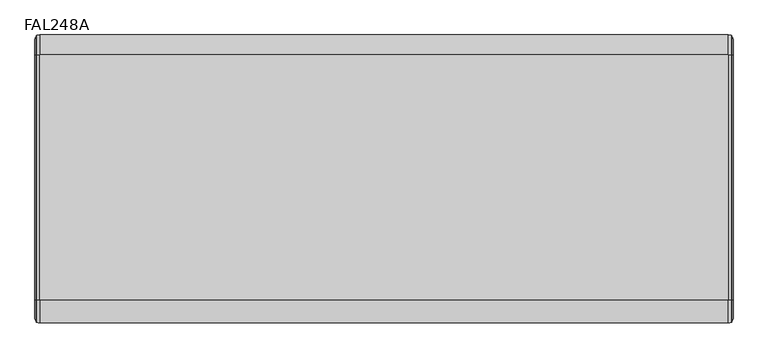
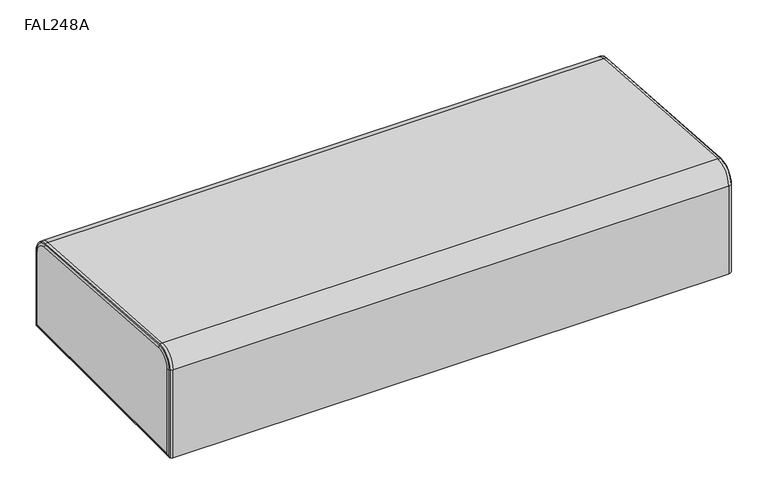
"""IFC4 building model written with IfcOpenShell, lengths in millimetres: furniture geometry, Stance_HC-Flora-Seat_Straight-Double_Side : FAL248A."""

from ifc_helpers import new_model, si_unit, point, frame, origin, place, context, project, spatial, circle_curve, ellipse_curve, trimmed, source, transform, mapped, element, save
from ifc_brep_helpers import plane_surface, cylinder_surface, revolved_surface, advanced_brep


def fal248a_ccf3dbf3(model_context):
    return source(origin(), model_context, "Body", "AdvancedBrep", [
        advanced_brep(
        [(1231.9, -718.0252254, 401.7640675), (1231.9, -718.0252254, 207.1687439), (1231.9, -227.4877011, 207.1687439), (1231.9, -227.4877011, 371.5696858), (1231.9, -254.8077919, 400.8668951), (1231.9, -686.6078161, 431.0612768), (0.0, -718.0252254, 207.1687439), (0.0, -718.0252254, 401.7640675), (0.0, -686.6078161, 431.0612768), (0.0, -254.8077919, 400.8668951), (0.0, -227.4877011, 371.5696858), (0.0, -227.4877011, 207.1687439), (1223.4158065, -726.7564754, 401.7640675), (8.4841935, -726.7564754, 401.7640675), (8.4841935, -726.7564754, 198.4374939), (1223.4158065, -726.7564754, 198.4374939), (8.4841935, -218.7564511, 198.4374939), (1223.4158065, -218.7564511, 198.4374939), (8.4841935, -218.7564511, 371.5696858), (1223.4158065, -218.7564511, 371.5696858), (1223.4158065, -254.198731, 409.5768762), (8.4841935, -254.198731, 409.5768762), (8.4841935, -685.9987552, 439.7712579), (1223.4158065, -685.9987552, 439.7712579), (2.6434528, -723.7181949, 401.7640675), (2.6434528, -723.7181949, 201.4757744), (2.5810757, -725.6518846, 199.5420847), (2.5810757, -725.6518846, 401.7640675), (2.6434528, -221.7947316, 201.4757744), (2.5810757, -219.8610419, 199.5420847), (2.6434528, -221.7947316, 371.5696858), (2.5810757, -219.8610419, 371.5696858), (2.6434528, -254.4106706, 406.5459969), (2.6434528, -686.2106948, 436.7403786), (2.5810757, -686.0758075, 438.6693579), (2.5810757, -254.2757833, 408.4749762), (1229.3189243, -725.6518846, 199.5420847), (1229.3189243, -725.6518846, 401.7640675), (1229.2565472, -723.7181949, 201.4757744), (1229.2565472, -723.7181949, 401.7640675), (1229.3189243, -219.8610419, 199.5420847), (1229.2565472, -221.7947316, 201.4757744), (1229.3189243, -219.8610419, 371.5696858), (1229.2565472, -221.7947316, 371.5696858), (1229.3189243, -686.0758075, 438.6693579), (1229.3189243, -254.2757833, 408.4749762), (1229.2565472, -686.2106948, 436.7403786), (1229.2565472, -254.4106706, 406.5459969)],
        [
            (0, 1),
            (1, 2),
            (2, 3),
            (3, 4, circle_curve(frame((1231.9, -256.8564511, 371.5696858), z_axis=(1.0, 0.0, 0.0), x_axis=(0.0, 1.0, 0.0)), 29.36875)),
            (4, 5),
            (5, 0, circle_curve(frame((1231.9, -688.6564754, 401.7640675), z_axis=(1.0, 0.0, 0.0), x_axis=(0.0, 0.06975643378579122, 0.9975640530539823)), 29.36875)),
            (6, 7),
            (7, 8, circle_curve(frame((0.0, -688.6564754, 401.7640675), z_axis=(-1.0, 0.0, 0.0), x_axis=(0.0, 0.06975643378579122, 0.9975640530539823)), 29.36875)),
            (8, 9),
            (9, 10, circle_curve(frame((0.0, -256.8564511, 371.5696858), z_axis=(-1.0, 0.0, 0.0), x_axis=(0.0, 1.0, 0.0)), 29.36875)),
            (10, 11),
            (11, 6),
            (12, 13),
            (13, 14),
            (14, 15),
            (15, 12),
            (14, 16),
            (16, 17),
            (17, 15),
            (16, 18),
            (18, 19),
            (19, 17),
            (20, 21),
            (21, 22),
            (22, 23),
            (23, 20),
            (24, 7, circle_curve(frame((7.4519478, -718.0252254, 401.7640675), z_axis=(0.0, 0.0, -1.0), x_axis=(0.0, 1.0, 0.0)), 7.4519478)),
            (6, 25, ellipse_curve(frame((7.4519478, -718.0252254, 207.1687439), z_axis=(0.0, -0.7071067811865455, 0.7071067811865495), x_axis=(0.0, 0.7071067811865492, 0.7071067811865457)), 10.5386456, 7.4519478)),
            (25, 24),
            (25, 26, ellipse_curve(frame((2.9517888, -724.6959921, 200.4979772), z_axis=(0.0, -0.7071067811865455, 0.7071067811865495), x_axis=(0.0, 0.7071067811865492, 0.7071067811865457)), 1.4499369, 1.0252602)),
            (26, 27),
            (27, 24, circle_curve(frame((2.9517888, -724.6959921, 401.7640675), z_axis=(0.0, 0.0, -1.0), x_axis=(0.0, 1.0, 0.0)), 1.0252602)),
            (13, 27, circle_curve(frame((8.4841935, -710.4305563, 401.7640675), z_axis=(0.0, 0.0, -1.0), x_axis=(0.0, 1.0, 0.0)), 16.3259191)),
            (26, 14, ellipse_curve(frame((8.4841935, -710.4305563, 214.763413), z_axis=(0.0, -0.7071067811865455, 0.7071067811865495), x_axis=(0.0, 0.7071067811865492, 0.7071067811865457)), 23.0883362, 16.3259191)),
            (11, 28, ellipse_curve(frame((7.4519478, -227.4877011, 207.1687439), z_axis=(0.0, -0.7071067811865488, -0.7071067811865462), x_axis=(0.0, -0.7071067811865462, 0.7071067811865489)), 10.5386456, 7.4519478)),
            (28, 25),
            (28, 29, ellipse_curve(frame((2.9517888, -220.8169344, 200.4979772), z_axis=(0.0, -0.7071067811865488, -0.7071067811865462), x_axis=(0.0, -0.7071067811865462, 0.7071067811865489)), 1.4499369, 1.0252602)),
            (29, 26),
            (29, 16, ellipse_curve(frame((8.4841935, -235.0823702, 214.763413), z_axis=(0.0, -0.7071067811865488, -0.7071067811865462), x_axis=(0.0, -0.7071067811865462, 0.7071067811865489)), 23.0883362, 16.3259191)),
            (10, 30, circle_curve(frame((7.4519478, -227.4877011, 371.5696858), z_axis=(0.0, 0.0, -1.0), x_axis=(0.0, -1.0, 0.0)), 7.4519478)),
            (30, 28),
            (30, 31, circle_curve(frame((2.9517888, -220.8169344, 371.5696858), z_axis=(0.0, 0.0, -1.0), x_axis=(0.0, -1.0, 0.0)), 1.0252602)),
            (31, 29),
            (31, 18, circle_curve(frame((8.4841935, -235.0823702, 371.5696858), z_axis=(0.0, 0.0, -1.0), x_axis=(0.0, -1.0, 0.0)), 16.3259191)),
            (32, 9, circle_curve(frame((7.4519478, -254.8077919, 400.8668951), z_axis=(0.0, -0.9975640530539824, 0.06975643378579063), x_axis=(0.0, -0.06975643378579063, -0.9975640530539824)), 7.4519478)),
            (8, 33, circle_curve(frame((7.4519478, -686.6078161, 431.0612768), z_axis=(0.0, 0.9975640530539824, -0.06975643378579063), x_axis=(0.0, -0.06975643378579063, -0.9975640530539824)), 7.4519478)),
            (33, 32),
            (33, 34, circle_curve(frame((2.9517888, -686.1424872, 437.7157939), z_axis=(0.0, 0.9975640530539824, -0.06975643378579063), x_axis=(0.0, -0.06975643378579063, -0.9975640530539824)), 1.0252602)),
            (34, 35),
            (35, 32, circle_curve(frame((2.9517888, -254.342463, 407.5214122), z_axis=(0.0, -0.9975640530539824, 0.06975643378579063), x_axis=(0.0, -0.06975643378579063, -0.9975640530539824)), 1.0252602)),
            (21, 35, circle_curve(frame((8.4841935, -255.3375689, 393.2907262), z_axis=(0.0, -0.9975640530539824, 0.06975643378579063), x_axis=(0.0, -0.06975643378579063, -0.9975640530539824)), 16.3259191)),
            (34, 22, circle_curve(frame((8.4841935, -687.1375931, 423.4851079), z_axis=(0.0, 0.9975640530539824, -0.06975643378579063), x_axis=(0.0, -0.06975643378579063, -0.9975640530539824)), 16.3259191)),
            (15, 36, ellipse_curve(frame((1223.4158065, -710.4305563, 214.763413), z_axis=(0.0, -0.7071067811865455, 0.7071067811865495), x_axis=(0.0, 0.7071067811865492, 0.7071067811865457)), 23.0883362, 16.3259191)),
            (36, 37),
            (37, 12, circle_curve(frame((1223.4158065, -710.4305563, 401.7640675), z_axis=(0.0, 0.0, -1.0), x_axis=(0.0, 1.0, 0.0)), 16.3259191)),
            (36, 38, ellipse_curve(frame((1228.9482112, -724.6959921, 200.4979772), z_axis=(0.0, -0.7071067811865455, 0.7071067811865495), x_axis=(0.0, 0.7071067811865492, 0.7071067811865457)), 1.4499369, 1.0252602)),
            (38, 39),
            (39, 37, circle_curve(frame((1228.9482112, -724.6959921, 401.7640675), z_axis=(0.0, 0.0, -1.0), x_axis=(0.0, 1.0, 0.0)), 1.0252602)),
            (38, 1, ellipse_curve(frame((1224.4480522, -718.0252254, 207.1687439), z_axis=(0.0, -0.7071067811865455, 0.7071067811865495), x_axis=(0.0, 0.7071067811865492, 0.7071067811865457)), 10.5386456, 7.4519478)),
            (0, 39, circle_curve(frame((1224.4480522, -718.0252254, 401.7640675), z_axis=(0.0, 0.0, -1.0), x_axis=(0.0, 1.0, 0.0)), 7.4519478)),
            (17, 40, ellipse_curve(frame((1223.4158065, -235.0823702, 214.763413), z_axis=(0.0, -0.7071067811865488, -0.7071067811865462), x_axis=(0.0, -0.7071067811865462, 0.7071067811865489)), 23.0883362, 16.3259191)),
            (40, 36),
            (40, 41, ellipse_curve(frame((1228.9482112, -220.8169344, 200.4979772), z_axis=(0.0, -0.7071067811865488, -0.7071067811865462), x_axis=(0.0, -0.7071067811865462, 0.7071067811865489)), 1.4499369, 1.0252602)),
            (41, 38),
            (41, 2, ellipse_curve(frame((1224.4480522, -227.4877011, 207.1687439), z_axis=(0.0, -0.7071067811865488, -0.7071067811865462), x_axis=(0.0, -0.7071067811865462, 0.7071067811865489)), 10.5386456, 7.4519478)),
            (19, 42, circle_curve(frame((1223.4158065, -235.0823702, 371.5696858), z_axis=(0.0, 0.0, -1.0), x_axis=(0.0, -1.0, 0.0)), 16.3259191)),
            (42, 40),
            (42, 43, circle_curve(frame((1228.9482112, -220.8169344, 371.5696858), z_axis=(0.0, 0.0, -1.0), x_axis=(0.0, -1.0, 0.0)), 1.0252602)),
            (43, 41),
            (43, 3, circle_curve(frame((1224.4480522, -227.4877011, 371.5696858), z_axis=(0.0, 0.0, -1.0), x_axis=(0.0, -1.0, 0.0)), 7.4519478)),
            (23, 44, circle_curve(frame((1223.4158065, -687.1375931, 423.4851079), z_axis=(0.0, 0.9975640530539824, -0.06975643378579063), x_axis=(0.0, -0.06975643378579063, -0.9975640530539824)), 16.3259191)),
            (44, 45),
            (45, 20, circle_curve(frame((1223.4158065, -255.3375689, 393.2907262), z_axis=(0.0, -0.9975640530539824, 0.06975643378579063), x_axis=(0.0, -0.06975643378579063, -0.9975640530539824)), 16.3259191)),
            (44, 46, circle_curve(frame((1228.9482112, -686.1424872, 437.7157939), z_axis=(0.0, 0.9975640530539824, -0.06975643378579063), x_axis=(0.0, -0.06975643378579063, -0.9975640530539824)), 1.0252602)),
            (46, 47),
            (47, 45, circle_curve(frame((1228.9482112, -254.342463, 407.5214122), z_axis=(0.0, -0.9975640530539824, 0.06975643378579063), x_axis=(0.0, -0.06975643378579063, -0.9975640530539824)), 1.0252602)),
            (46, 5, circle_curve(frame((1224.4480522, -686.6078161, 431.0612768), z_axis=(0.0, 0.9975640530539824, -0.06975643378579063), x_axis=(0.0, -0.06975643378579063, -0.9975640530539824)), 7.4519478)),
            (4, 47, circle_curve(frame((1224.4480522, -254.8077919, 400.8668951), z_axis=(0.0, -0.9975640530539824, 0.06975643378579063), x_axis=(0.0, -0.06975643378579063, -0.9975640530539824)), 7.4519478)),
            (37, 44, circle_curve(frame((1229.3189243, -688.6564754, 401.7640675), z_axis=(-1.0, 0.0, 0.0), x_axis=(0.0, 0.06975643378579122, 0.9975640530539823)), 36.9954092)),
            (23, 12, circle_curve(frame((1223.4158065, -688.6564754, 401.7640675), z_axis=(1.0, 0.0, 0.0), x_axis=(0.0, 0.06975643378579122, 0.9975640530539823)), 38.1)),
            (39, 46, circle_curve(frame((1229.2565472, -688.6564754, 401.7640675), z_axis=(-1.0, 0.0, 0.0), x_axis=(0.0, 0.06975643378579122, 0.9975640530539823)), 35.0617195)),
            (24, 33, circle_curve(frame((2.6434528, -688.6564754, 401.7640675), z_axis=(-1.0, 0.0, 0.0), x_axis=(0.0, 0.06975643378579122, 0.9975640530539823)), 35.0617195)),
            (27, 34, circle_curve(frame((2.5810757, -688.6564754, 401.7640675), z_axis=(-1.0, 0.0, 0.0), x_axis=(0.0, 0.06975643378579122, 0.9975640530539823)), 36.9954092)),
            (13, 22, circle_curve(frame((8.4841935, -688.6564754, 401.7640675), z_axis=(-1.0, 0.0, 0.0), x_axis=(0.0, 0.06975643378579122, 0.9975640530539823)), 38.1)),
            (19, 20, circle_curve(frame((1223.4158065, -256.8564511, 371.5696858), z_axis=(1.0, 0.0, 0.0), x_axis=(0.0, 1.0, 0.0)), 38.1)),
            (45, 42, circle_curve(frame((1229.3189243, -256.8564511, 371.5696858), z_axis=(-1.0, 0.0, 0.0), x_axis=(0.0, 1.0, 0.0)), 36.9954092)),
            (47, 43, circle_curve(frame((1229.2565472, -256.8564511, 371.5696858), z_axis=(-1.0, 0.0, 0.0), x_axis=(0.0, 1.0, 0.0)), 35.0617195)),
            (32, 30, circle_curve(frame((2.6434528, -256.8564511, 371.5696858), z_axis=(-1.0, 0.0, 0.0), x_axis=(0.0, 1.0, 0.0)), 35.0617195)),
            (35, 31, circle_curve(frame((2.5810757, -256.8564511, 371.5696858), z_axis=(-1.0, 0.0, 0.0), x_axis=(0.0, 1.0, 0.0)), 36.9954092)),
            (21, 18, circle_curve(frame((8.4841935, -256.8564511, 371.5696858), z_axis=(-1.0, 0.0, 0.0), x_axis=(0.0, 1.0, 0.0)), 38.1)),
        ],
        [
            plane_surface(frame((1231.9, -686.6078161, 431.0612768), z_axis=(1.0, 0.0, 0.0), x_axis=(0.0, -0.9975640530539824, 0.06975643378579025))),
            plane_surface(frame((0.0, -686.6078161, 431.0612768), z_axis=(-1.0, 0.0, 0.0), x_axis=(0.0, 0.9975640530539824, -0.06975643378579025))),
            plane_surface(frame((8.4841935, -726.7564754, 401.7640675), z_axis=(0.0, -1.0, 0.0), x_axis=(0.0, 0.0, -1.0))),
            plane_surface(frame((8.4841935, -726.7564754, 198.4374939), z_axis=(0.0, 0.0, -1.0), x_axis=(0.0, 1.0, 0.0))),
            plane_surface(frame((8.4841935, -218.7564511, 198.4374939), z_axis=(0.0, 1.0, 0.0), x_axis=(0.0, 0.0, 1.0))),
            plane_surface(frame((8.4841935, -254.198731, 409.5768762), z_axis=(0.0, 0.06975643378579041, 0.9975640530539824), x_axis=(0.0, -0.9975640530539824, 0.06975643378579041))),
            cylinder_surface(frame((7.4519478, -718.0252254, 401.7640675), z_axis=(0.0, 0.0, 1.0), x_axis=(0.0, 1.0, 0.0)), 7.4519478),
            cylinder_surface(frame((2.9517888, -724.6959921, 401.7640675), z_axis=(0.0, 0.0, 1.0), x_axis=(0.0, 1.0, 0.0)), 1.0252602),
            cylinder_surface(frame((8.4841935, -710.4305563, 401.7640675), z_axis=(0.0, 0.0, 1.0), x_axis=(0.0, 1.0, 0.0)), 16.3259191),
            cylinder_surface(frame((7.4519478, -726.7564754, 207.1687439), z_axis=(0.0, -1.0, 0.0), x_axis=(0.0, 0.0, 1.0)), 7.4519478),
            cylinder_surface(frame((2.9517888, -726.7564754, 200.4979772), z_axis=(0.0, -1.0, 0.0), x_axis=(0.0, 0.0, 1.0)), 1.0252602),
            cylinder_surface(frame((8.4841935, -726.7564754, 214.763413), z_axis=(0.0, -1.0, 0.0), x_axis=(0.0, 0.0, 1.0)), 16.3259191),
            cylinder_surface(frame((7.4519478, -227.4877011, 198.4374939), z_axis=(0.0, 0.0, -1.0), x_axis=(0.0, -1.0, 0.0)), 7.4519478),
            cylinder_surface(frame((2.9517888, -220.8169344, 198.4374939), z_axis=(0.0, 0.0, -1.0), x_axis=(0.0, -1.0, 0.0)), 1.0252602),
            cylinder_surface(frame((8.4841935, -235.0823702, 198.4374939), z_axis=(0.0, 0.0, -1.0), x_axis=(0.0, -1.0, 0.0)), 16.3259191),
            cylinder_surface(frame((7.4519478, -254.8077919, 400.8668951), z_axis=(0.0, 0.9975640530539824, -0.06975643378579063), x_axis=(0.0, -0.06975643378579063, -0.9975640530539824)), 7.4519478),
            cylinder_surface(frame((2.9517888, -254.342463, 407.5214122), z_axis=(0.0, 0.9975640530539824, -0.06975643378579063), x_axis=(0.0, -0.06975643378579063, -0.9975640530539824)), 1.0252602),
            cylinder_surface(frame((8.4841935, -255.3375689, 393.2907262), z_axis=(0.0, 0.9975640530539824, -0.06975643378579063), x_axis=(0.0, -0.06975643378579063, -0.9975640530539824)), 16.3259191),
            cylinder_surface(frame((1223.4158065, -710.4305563, 401.7640675), z_axis=(0.0, 0.0, 1.0), x_axis=(0.0, 1.0, 0.0)), 16.3259191),
            cylinder_surface(frame((1228.9482112, -724.6959921, 401.7640675), z_axis=(0.0, 0.0, 1.0), x_axis=(0.0, 1.0, 0.0)), 1.0252602),
            cylinder_surface(frame((1224.4480522, -718.0252254, 401.7640675), z_axis=(0.0, 0.0, 1.0), x_axis=(0.0, 1.0, 0.0)), 7.4519478),
            cylinder_surface(frame((1223.4158065, -726.7564754, 214.763413), z_axis=(0.0, -1.0, 0.0), x_axis=(0.0, 0.0, 1.0)), 16.3259191),
            cylinder_surface(frame((1228.9482112, -726.7564754, 200.4979772), z_axis=(0.0, -1.0, 0.0), x_axis=(0.0, 0.0, 1.0)), 1.0252602),
            cylinder_surface(frame((1224.4480522, -726.7564754, 207.1687439), z_axis=(0.0, -1.0, 0.0), x_axis=(0.0, 0.0, 1.0)), 7.4519478),
            cylinder_surface(frame((1223.4158065, -235.0823702, 198.4374939), z_axis=(0.0, 0.0, -1.0), x_axis=(0.0, -1.0, 0.0)), 16.3259191),
            cylinder_surface(frame((1228.9482112, -220.8169344, 198.4374939), z_axis=(0.0, 0.0, -1.0), x_axis=(0.0, -1.0, 0.0)), 1.0252602),
            cylinder_surface(frame((1224.4480522, -227.4877011, 198.4374939), z_axis=(0.0, 0.0, -1.0), x_axis=(0.0, -1.0, 0.0)), 7.4519478),
            cylinder_surface(frame((1223.4158065, -255.3375689, 393.2907262), z_axis=(0.0, 0.9975640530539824, -0.06975643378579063), x_axis=(0.0, -0.06975643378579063, -0.9975640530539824)), 16.3259191),
            cylinder_surface(frame((1228.9482112, -254.342463, 407.5214122), z_axis=(0.0, 0.9975640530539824, -0.06975643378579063), x_axis=(0.0, -0.06975643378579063, -0.9975640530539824)), 1.0252602),
            cylinder_surface(frame((1224.4480522, -254.8077919, 400.8668951), z_axis=(0.0, 0.9975640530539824, -0.06975643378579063), x_axis=(0.0, -0.06975643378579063, -0.9975640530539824)), 7.4519478),
            revolved_surface(trimmed(ellipse_curve(frame((1223.4158065, -687.1375931, 423.4851079), z_axis=(0.0, 0.9975640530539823, -0.06975643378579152), x_axis=(0.0, -0.06975643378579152, -0.9975640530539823)), 16.3259191, 16.3259191), [point((1223.4158065, -685.9987552, 439.7712579))], [point((1229.3189243, -686.0758075, 438.6693579))], True, "CARTESIAN"), (0.0, -688.6564754, 401.7640675), (1.0, 0.0, 0.0)),
            revolved_surface(trimmed(ellipse_curve(frame((1228.9482112, -686.1424872, 437.7157939), z_axis=(0.0, 0.9975640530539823, -0.06975643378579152), x_axis=(0.0, -0.06975643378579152, -0.9975640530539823)), 1.0252602, 1.0252602), [point((1229.3189243, -686.0758075, 438.6693579))], [point((1229.2565472, -686.2106948, 436.7403786))], True, "CARTESIAN"), (0.0, -688.6564754, 401.7640675), (1.0, 0.0, 0.0)),
            revolved_surface(trimmed(ellipse_curve(frame((1224.4480522, -686.6078161, 431.0612768), z_axis=(0.0, 0.9975640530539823, -0.06975643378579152), x_axis=(0.0, -0.06975643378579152, -0.9975640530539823)), 7.4519478, 7.4519478), [point((1229.2565472, -686.2106948, 436.7403786))], [point((1231.9, -686.6078161, 431.0612768))], True, "CARTESIAN"), (0.0, -688.6564754, 401.7640675), (1.0, 0.0, 0.0)),
            revolved_surface(trimmed(ellipse_curve(frame((7.4519478, -686.6078161, 431.0612768), z_axis=(0.0, 0.9975640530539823, -0.06975643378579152), x_axis=(0.0, -0.06975643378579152, -0.9975640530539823)), 7.4519478, 7.4519478), [point((0.0, -686.6078161, 431.0612768))], [point((2.6434528, -686.2106948, 436.7403786))], True, "CARTESIAN"), (0.0, -688.6564754, 401.7640675), (1.0, 0.0, 0.0)),
            revolved_surface(trimmed(ellipse_curve(frame((2.9517888, -686.1424872, 437.7157939), z_axis=(0.0, 0.9975640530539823, -0.06975643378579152), x_axis=(0.0, -0.06975643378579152, -0.9975640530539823)), 1.0252602, 1.0252602), [point((2.6434528, -686.2106948, 436.7403786))], [point((2.5810757, -686.0758075, 438.6693579))], True, "CARTESIAN"), (0.0, -688.6564754, 401.7640675), (1.0, 0.0, 0.0)),
            revolved_surface(trimmed(ellipse_curve(frame((8.4841935, -687.1375931, 423.4851079), z_axis=(0.0, 0.9975640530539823, -0.06975643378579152), x_axis=(0.0, -0.06975643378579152, -0.9975640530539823)), 16.3259191, 16.3259191), [point((2.5810757, -686.0758075, 438.6693579))], [point((8.4841935, -685.9987552, 439.7712579))], True, "CARTESIAN"), (0.0, -688.6564754, 401.7640675), (1.0, 0.0, 0.0)),
            cylinder_surface(frame((0.0, -688.6564754, 401.7640675), z_axis=(1.0, 0.0, 0.0), x_axis=(0.0, 0.06975643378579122, 0.9975640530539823)), 38.1),
            revolved_surface(trimmed(ellipse_curve(frame((1223.4158065, -235.0823702, 371.5696858), z_axis=(0.0, 0.0, -1.0), x_axis=(0.0, -1.0, 0.0)), 16.3259191, 16.3259191), [point((1223.4158065, -218.7564511, 371.5696858))], [point((1229.3189243, -219.8610419, 371.5696858))], True, "CARTESIAN"), (0.0, -256.8564511, 371.5696858), (1.0, 0.0, 0.0)),
            revolved_surface(trimmed(ellipse_curve(frame((1228.9482112, -220.8169344, 371.5696858), z_axis=(0.0, 0.0, -1.0), x_axis=(0.0, -1.0, 0.0)), 1.0252602, 1.0252602), [point((1229.3189243, -219.8610419, 371.5696858))], [point((1229.2565472, -221.7947316, 371.5696858))], True, "CARTESIAN"), (0.0, -256.8564511, 371.5696858), (1.0, 0.0, 0.0)),
            revolved_surface(trimmed(ellipse_curve(frame((1224.4480522, -227.4877011, 371.5696858), z_axis=(0.0, 0.0, -1.0), x_axis=(0.0, -1.0, 0.0)), 7.4519478, 7.4519478), [point((1229.2565472, -221.7947316, 371.5696858))], [point((1231.9, -227.4877011, 371.5696858))], True, "CARTESIAN"), (0.0, -256.8564511, 371.5696858), (1.0, 0.0, 0.0)),
            revolved_surface(trimmed(ellipse_curve(frame((7.4519478, -227.4877011, 371.5696858), z_axis=(0.0, 0.0, -1.0), x_axis=(0.0, -1.0, 0.0)), 7.4519478, 7.4519478), [point((0.0, -227.4877011, 371.5696858))], [point((2.6434528, -221.7947316, 371.5696858))], True, "CARTESIAN"), (0.0, -256.8564511, 371.5696858), (1.0, 0.0, 0.0)),
            revolved_surface(trimmed(ellipse_curve(frame((2.9517888, -220.8169344, 371.5696858), z_axis=(0.0, 0.0, -1.0), x_axis=(0.0, -1.0, 0.0)), 1.0252602, 1.0252602), [point((2.6434528, -221.7947316, 371.5696858))], [point((2.5810757, -219.8610419, 371.5696858))], True, "CARTESIAN"), (0.0, -256.8564511, 371.5696858), (1.0, 0.0, 0.0)),
            revolved_surface(trimmed(ellipse_curve(frame((8.4841935, -235.0823702, 371.5696858), z_axis=(0.0, 0.0, -1.0), x_axis=(0.0, -1.0, 0.0)), 16.3259191, 16.3259191), [point((2.5810757, -219.8610419, 371.5696858))], [point((8.4841935, -218.7564511, 371.5696858))], True, "CARTESIAN"), (0.0, -256.8564511, 371.5696858), (1.0, 0.0, 0.0)),
            cylinder_surface(frame((0.0, -256.8564511, 371.5696858), z_axis=(1.0, 0.0, 0.0), x_axis=(0.0, 1.0, 0.0)), 38.1),
        ],
        [
            (0, [[1, 2, 3, 4, 5, 6]]),
            (1, [[7, 8, 9, 10, 11, 12]]),
            (2, [[13, 14, 15, 16]]),
            (3, [[-15, 17, 18, 19]]),
            (4, [[-18, 20, 21, 22]]),
            (5, [[23, 24, 25, 26]]),
            (6, [[27, -7, 28, 29]]),
            (7, [[-29, 30, 31, 32]]),
            (8, [[-14, 33, -31, 34]]),
            (9, [[-28, -12, 35, 36]]),
            (10, [[-30, -36, 37, 38]]),
            (11, [[-17, -34, -38, 39]]),
            (12, [[-35, -11, 40, 41]]),
            (13, [[-37, -41, 42, 43]]),
            (14, [[-20, -39, -43, 44]]),
            (15, [[45, -9, 46, 47]]),
            (16, [[-47, 48, 49, 50]]),
            (17, [[-24, 51, -49, 52]]),
            (18, [[-16, 53, 54, 55]]),
            (19, [[-54, 56, 57, 58]]),
            (20, [[-57, 59, -1, 60]]),
            (21, [[-19, 61, 62, -53]]),
            (22, [[-56, -62, 63, 64]]),
            (23, [[-59, -64, 65, -2]]),
            (24, [[-22, 66, 67, -61]]),
            (25, [[-63, -67, 68, 69]]),
            (26, [[-65, -69, 70, -3]]),
            (27, [[-26, 71, 72, 73]]),
            (28, [[-72, 74, 75, 76]]),
            (29, [[-75, 77, -5, 78]]),
            (30, [[-55, 79, -71, 80]]),
            (31, [[-58, 81, -74, -79]]),
            (32, [[-60, -6, -77, -81]]),
            (33, [[-27, 82, -46, -8]]),
            (34, [[-32, 83, -48, -82]]),
            (35, [[-33, 84, -52, -83]]),
            (36, [[-13, -80, -25, -84]]),
            (37, [[-66, 85, -73, 86]]),
            (38, [[-68, -86, -76, 87]]),
            (39, [[-70, -87, -78, -4]]),
            (40, [[-40, -10, -45, 88]]),
            (41, [[-42, -88, -50, 89]]),
            (42, [[-44, -89, -51, 90]]),
            (43, [[-21, -90, -23, -85]]),
        ],
    ),
    ])


if __name__ == "__main__":
    model = new_model("IFC4")
    model_context = context("Model", 3, world=origin())
    ifc_project = project(units=[si_unit("LENGTHUNIT", "METRE", prefix="MILLI")], contexts=[model_context])
    site = spatial("IfcSite", under=ifc_project)
    building = spatial("IfcBuilding", under=site)
    placement = place(None, origin())
    fal248a_shape = fal248a_ccf3dbf3(model_context)
    element("IfcFurniture", 1, ObjectType="Stance_HC-Flora-Seat_Straight-Double_Side : FAL248A", at=placement, inside=building, context=model_context, shape_type="MappedRepresentation", body=[
        mapped(fal248a_shape, transform((0.0, 0.0, 0.0), x_axis=(1.0, 0.0, 0.0), y_axis=(0.0, 1.0, 0.0), z_axis=(0.0, 0.0, 1.0))),
    ])
    save(model, "model.ifc")
